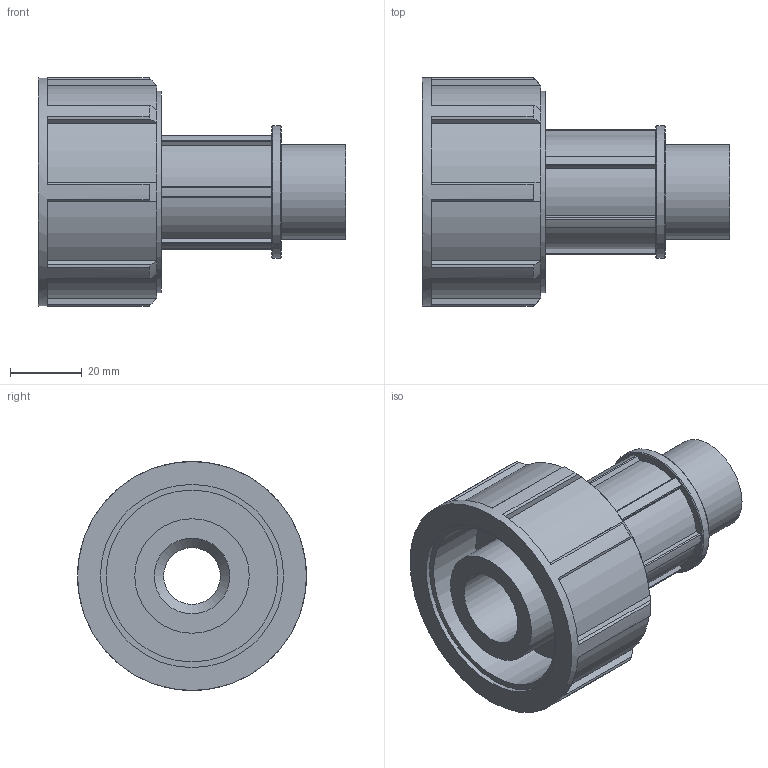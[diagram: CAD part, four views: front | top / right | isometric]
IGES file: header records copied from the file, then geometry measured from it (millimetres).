
Global section: file name: 072500032007_182500032007_0725060320070A.ipt; native system: Autodesk Inventor 2015; preprocessor: unknown; author: KIM; date: 20170608.042140; units: millimetre
Bounding box: 86 x 64 x 64 mm (x, y, z)
Volume: 86711.5 mm3; surface area: 32242.4 mm2
Topology: 1 solids, 1 shells, 115 faces, 322 edges, 217 vertices
Faces by surface type: plane 74, cylinder 25, cone 10, revolution 6
Full cylindrical faces by diameter (mm): 26.441 x1, 32 x1, 37.017 x1, 56.32 x1, 64 x1
